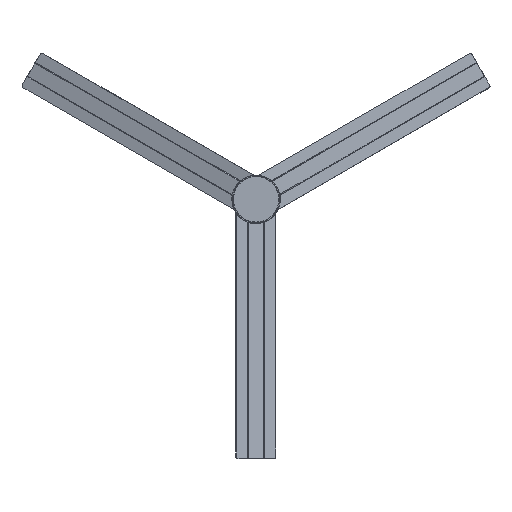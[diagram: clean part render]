
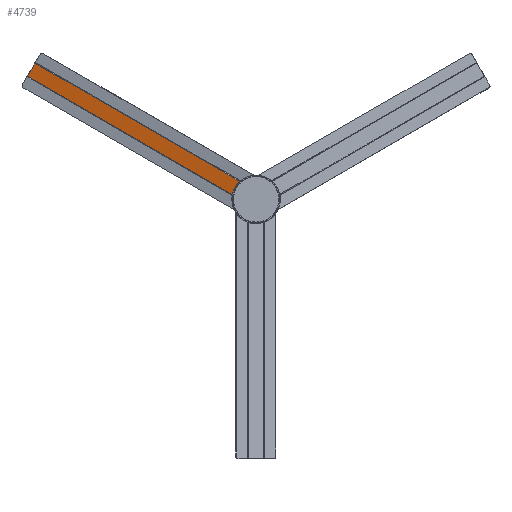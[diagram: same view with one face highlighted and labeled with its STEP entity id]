
A CAD part, top view. The second image highlights one B-rep face of the part: STEP entity #4739.
In plain terms, the highlighted planar face has unit normal (-0.113, -0.195, 0.974) as drawn and (0.225, 0, 0.974) by its records, which use the part's own axes.
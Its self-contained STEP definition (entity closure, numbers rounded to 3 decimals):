
#53=FACE_BOUND('',#755,.T.);
#494=FACE_OUTER_BOUND('',#754,.T.);
#754=EDGE_LOOP('',(#3783,#3784,#3785,#3786));
#755=EDGE_LOOP('',(#3787,#3788));
#963=LINE('',#8511,#1368);
#979=LINE('',#8605,#1384);
#1064=LINE('',#8852,#1469);
#1368=VECTOR('',#5801,304.8);
#1384=VECTOR('',#5861,304.8);
#1469=VECTOR('',#6092,304.8);
#1748=CIRCLE('',#5057,56.);
#1755=CIRCLE('',#5096,2.6);
#1756=CIRCLE('',#5101,2.6);
#2002=VERTEX_POINT('',#8507);
#2004=VERTEX_POINT('',#8510);
#2023=VERTEX_POINT('',#8578);
#2031=VERTEX_POINT('',#8600);
#2071=VERTEX_POINT('',#8746);
#2072=VERTEX_POINT('',#8748);
#2560=EDGE_CURVE('',#2004,#2002,#963,.T.);
#2584=EDGE_CURVE('',#2023,#2004,#1748,.T.);
#2595=EDGE_CURVE('',#2031,#2023,#979,.T.);
#2657=EDGE_CURVE('',#2072,#2071,#1755,.T.);
#2662=EDGE_CURVE('',#2071,#2072,#1756,.T.);
#2711=EDGE_CURVE('',#2031,#2002,#1064,.T.);
#3783=ORIENTED_EDGE('',*,*,#2711,.F.);
#3784=ORIENTED_EDGE('',*,*,#2595,.T.);
#3785=ORIENTED_EDGE('',*,*,#2584,.T.);
#3786=ORIENTED_EDGE('',*,*,#2560,.T.);
#3787=ORIENTED_EDGE('',*,*,#2662,.T.);
#3788=ORIENTED_EDGE('',*,*,#2657,.T.);
#4521=PLANE('',#5133);
#4739=ADVANCED_FACE('',(#494,#53),#4521,.T.);
#5057=AXIS2_PLACEMENT_3D('',#8579,#5845,#5846);
#5096=AXIS2_PLACEMENT_3D('',#8749,#5977,#5978);
#5101=AXIS2_PLACEMENT_3D('',#8756,#5988,#5989);
#5133=AXIS2_PLACEMENT_3D('',#8851,#6090,#6091);
#5801=DIRECTION('',(0.,-1.,0.));
#5845=DIRECTION('center_axis',(-0.225,0.,-0.974));
#5846=DIRECTION('ref_axis',(0.88,0.429,-0.203));
#5861=DIRECTION('',(0.,1.,0.));
#5977=DIRECTION('center_axis',(-0.225,0.,-0.974));
#5978=DIRECTION('ref_axis',(0.974,0.,-0.225));
#5988=DIRECTION('center_axis',(-0.225,0.,-0.974));
#5989=DIRECTION('ref_axis',(0.974,0.,-0.225));
#6090=DIRECTION('center_axis',(0.225,0.,0.974));
#6091=DIRECTION('ref_axis',(0.974,0.,-0.225));
#6092=DIRECTION('',(-0.974,0.,0.225));
#8507=CARTESIAN_POINT('',(-23.722,-799.99,1734.52));
#8510=CARTESIAN_POINT('',(-23.722,-50.617,1734.52));
#8511=CARTESIAN_POINT('',(-23.722,-50.617,1734.52));
#8578=CARTESIAN_POINT('',(23.047,-50.576,1723.722));
#8579=CARTESIAN_POINT('Origin',(-0.38,0.,1729.131));
#8600=CARTESIAN_POINT('',(23.047,-799.99,1723.722));
#8605=CARTESIAN_POINT('',(23.047,-799.99,1723.722));
#8746=CARTESIAN_POINT('',(-2.913,-67.,1729.716));
#8748=CARTESIAN_POINT('',(2.153,-67.,1728.546));
#8749=CARTESIAN_POINT('Origin',(-0.38,-67.,1729.131));
#8756=CARTESIAN_POINT('Origin',(-0.38,-67.,1729.131));
#8851=CARTESIAN_POINT('Origin',(73.615,33.77,1712.048));
#8852=CARTESIAN_POINT('',(23.047,-799.99,1723.722));
